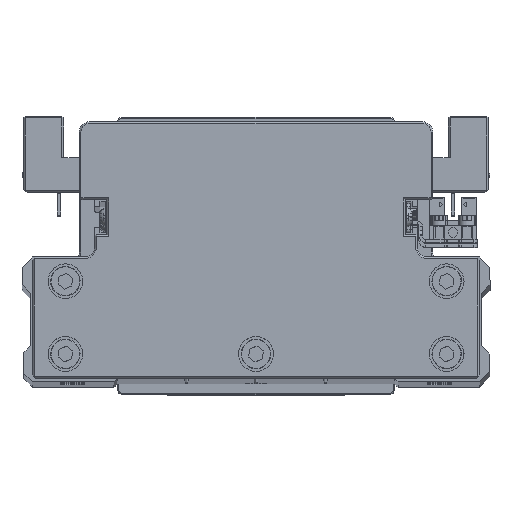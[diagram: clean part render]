
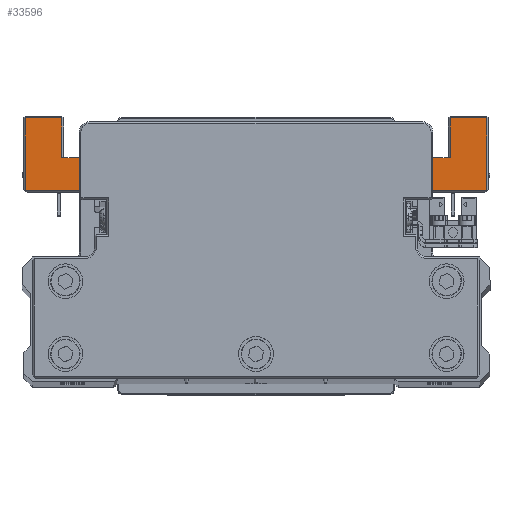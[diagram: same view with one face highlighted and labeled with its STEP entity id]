
A CAD part, top view. The second image highlights one B-rep face of the part: STEP entity #33596.
In plain terms, the highlighted planar face has unit normal (0, 0, 1) as drawn and (0, -1, 0) by its records, which use the part's own axes.
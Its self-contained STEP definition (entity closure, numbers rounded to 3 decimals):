
#302 = AXIS2_PLACEMENT_3D ( 'NONE', #22902, #35303, #7432 ) ;
#437 = VERTEX_POINT ( 'NONE', #11295 ) ;
#575 = LINE ( 'NONE', #12996, #25703 ) ;
#1486 = CARTESIAN_POINT ( 'NONE',  ( -56., -45., -64. ) ) ;
#1846 = PLANE ( 'NONE',  #14565 ) ;
#2175 = CARTESIAN_POINT ( 'NONE',  ( 55.5, -45., -52.5 ) ) ;
#2329 = VERTEX_POINT ( 'NONE', #1486 ) ;
#2502 = VECTOR ( 'NONE', #24038, 1000. ) ;
#2592 = VERTEX_POINT ( 'NONE', #22017 ) ;
#2631 = CARTESIAN_POINT ( 'NONE',  ( 66.5, -45., -43. ) ) ;
#2761 = DIRECTION ( 'NONE',  ( 0., 0., 1. ) ) ;
#2788 = VERTEX_POINT ( 'NONE', #11043 ) ;
#2882 = ORIENTED_EDGE ( 'NONE', *, *, #24115, .T. ) ;
#3493 = VECTOR ( 'NONE', #32410, 1000. ) ;
#3572 = ORIENTED_EDGE ( 'NONE', *, *, #27896, .T. ) ;
#3634 = DIRECTION ( 'NONE',  ( 0., 0., 1. ) ) ;
#3828 = DIRECTION ( 'NONE',  ( 0., 0., -1. ) ) ;
#4420 = VECTOR ( 'NONE', #5552, 1000. ) ;
#4732 = DIRECTION ( 'NONE',  ( -1., 0., 0. ) ) ;
#5180 = EDGE_CURVE ( 'NONE', #8607, #36846, #19289, .T. ) ;
#5191 = VERTEX_POINT ( 'NONE', #28637 ) ;
#5448 = ORIENTED_EDGE ( 'NONE', *, *, #17012, .T. ) ;
#5552 = DIRECTION ( 'NONE',  ( 0., 0., -1. ) ) ;
#5728 = LINE ( 'NONE', #18130, #33425 ) ;
#6037 = CARTESIAN_POINT ( 'NONE',  ( -77.786, -45., -42.5 ) ) ;
#6218 = EDGE_CURVE ( 'NONE', #27183, #8607, #20213, .T. ) ;
#6490 = CARTESIAN_POINT ( 'NONE',  ( -46., -45., -52.5 ) ) ;
#7432 = DIRECTION ( 'NONE',  ( 0., 0., -1. ) ) ;
#7447 = VERTEX_POINT ( 'NONE', #25497 ) ;
#7581 = LINE ( 'NONE', #20008, #3493 ) ;
#7717 = EDGE_CURVE ( 'NONE', #12613, #2592, #21008, .T. ) ;
#7741 = VECTOR ( 'NONE', #14598, 1000. ) ;
#7796 = LINE ( 'NONE', #20205, #13926 ) ;
#8044 = LINE ( 'NONE', #20461, #39507 ) ;
#8049 = CARTESIAN_POINT ( 'NONE',  ( -40.066, -45., -41.5 ) ) ;
#8148 = EDGE_CURVE ( 'NONE', #31023, #29052, #39489, .T. ) ;
#8607 = VERTEX_POINT ( 'NONE', #30999 ) ;
#10303 = LINE ( 'NONE', #22710, #25923 ) ;
#10494 = LINE ( 'NONE', #22894, #17403 ) ;
#10499 = CARTESIAN_POINT ( 'NONE',  ( -40.066, -45., -43. ) ) ;
#11043 = CARTESIAN_POINT ( 'NONE',  ( -39.868, -45., -42.987 ) ) ;
#11260 = CARTESIAN_POINT ( 'NONE',  ( 46., -45., -54. ) ) ;
#11295 = CARTESIAN_POINT ( 'NONE',  ( 46., -45., -54. ) ) ;
#11555 = VERTEX_POINT ( 'NONE', #29750 ) ;
#11557 = CARTESIAN_POINT ( 'NONE',  ( 39.868, -45., -42.987 ) ) ;
#11640 = CARTESIAN_POINT ( 'NONE',  ( 25.802, -45., -41.111 ) ) ;
#12613 = VERTEX_POINT ( 'NONE', #33712 ) ;
#12801 = EDGE_CURVE ( 'NONE', #36936, #437, #10303, .T. ) ;
#12996 = CARTESIAN_POINT ( 'NONE',  ( 40.066, -45., -43. ) ) ;
#13452 = ORIENTED_EDGE ( 'NONE', *, *, #6218, .T. ) ;
#13678 = VERTEX_POINT ( 'NONE', #16071 ) ;
#13876 = EDGE_LOOP ( 'NONE', ( #5448, #27678, #24569, #13452, #35612, #25183, #32798, #34338, #34993, #2882, #29267, #36251, #37316, #40224, #34585, #3572, #32757, #30082 ) ) ;
#13926 = VECTOR ( 'NONE', #32601, 1000. ) ;
#14107 = CARTESIAN_POINT ( 'NONE',  ( 36.217, -45., -42.5 ) ) ;
#14274 = CARTESIAN_POINT ( 'NONE',  ( 0., -45., 0. ) ) ;
#14565 = AXIS2_PLACEMENT_3D ( 'NONE', #14274, #26668, #39086 ) ;
#14598 = DIRECTION ( 'NONE',  ( -1., 0., 0. ) ) ;
#14910 = AXIS2_PLACEMENT_3D ( 'NONE', #8049, #20467, #32873 ) ;
#15086 = VERTEX_POINT ( 'NONE', #26452 ) ;
#15936 = EDGE_CURVE ( 'NONE', #5191, #2788, #10494, .T. ) ;
#16071 = CARTESIAN_POINT ( 'NONE',  ( -56., -45., -52.5 ) ) ;
#16974 = EDGE_CURVE ( 'NONE', #7447, #22782, #18248, .T. ) ;
#17012 = EDGE_CURVE ( 'NONE', #29052, #5191, #33901, .T. ) ;
#17326 = VECTOR ( 'NONE', #4732, 1000. ) ;
#17403 = VECTOR ( 'NONE', #35296, 1000. ) ;
#17860 = CIRCLE ( 'NONE', #302, 1.5 ) ;
#18130 = CARTESIAN_POINT ( 'NONE',  ( 67., -45., -64. ) ) ;
#18248 = LINE ( 'NONE', #30639, #37195 ) ;
#18434 = DIRECTION ( 'NONE',  ( -1., 0., 0. ) ) ;
#19100 = LINE ( 'NONE', #31500, #39931 ) ;
#19289 = LINE ( 'NONE', #31694, #22002 ) ;
#20008 = CARTESIAN_POINT ( 'NONE',  ( -55.5, -45., -52.5 ) ) ;
#20205 = CARTESIAN_POINT ( 'NONE',  ( -46., -45., -52.5 ) ) ;
#20213 = LINE ( 'NONE', #32610, #17326 ) ;
#20461 = CARTESIAN_POINT ( 'NONE',  ( -55.5, -45., -64. ) ) ;
#20467 = DIRECTION ( 'NONE',  ( 0., 1., 0. ) ) ;
#21008 = LINE ( 'NONE', #33411, #4420 ) ;
#22002 = VECTOR ( 'NONE', #3828, 1000. ) ;
#22017 = CARTESIAN_POINT ( 'NONE',  ( 56., -45., -64. ) ) ;
#22284 = EDGE_CURVE ( 'NONE', #36846, #2329, #8044, .T. ) ;
#22710 = CARTESIAN_POINT ( 'NONE',  ( 46., -45., -52.5 ) ) ;
#22782 = VERTEX_POINT ( 'NONE', #2631 ) ;
#22894 = CARTESIAN_POINT ( 'NONE',  ( -39.868, -45., -42.987 ) ) ;
#22902 = CARTESIAN_POINT ( 'NONE',  ( 40.066, -45., -41.5 ) ) ;
#23198 = EDGE_CURVE ( 'NONE', #12613, #36936, #30048, .T. ) ;
#23607 = EDGE_CURVE ( 'NONE', #2788, #27183, #32442, .T. ) ;
#23663 = DIRECTION ( 'NONE',  ( 1., 0., 0. ) ) ;
#24038 = DIRECTION ( 'NONE',  ( -0.991, 0., 0.132 ) ) ;
#24115 = EDGE_CURVE ( 'NONE', #15086, #437, #39127, .T. ) ;
#24569 = ORIENTED_EDGE ( 'NONE', *, *, #23607, .T. ) ;
#24848 = VECTOR ( 'NONE', #18434, 1000. ) ;
#25183 = ORIENTED_EDGE ( 'NONE', *, *, #22284, .T. ) ;
#25395 = DIRECTION ( 'NONE',  ( -1., 0., 0. ) ) ;
#25497 = CARTESIAN_POINT ( 'NONE',  ( 66.5, -45., -64. ) ) ;
#25703 = VECTOR ( 'NONE', #25395, 1000. ) ;
#25923 = VECTOR ( 'NONE', #35109, 1000. ) ;
#26452 = CARTESIAN_POINT ( 'NONE',  ( -46., -45., -54. ) ) ;
#26668 = DIRECTION ( 'NONE',  ( 0., -1., 0. ) ) ;
#27183 = VERTEX_POINT ( 'NONE', #10499 ) ;
#27678 = ORIENTED_EDGE ( 'NONE', *, *, #15936, .T. ) ;
#27864 = VERTEX_POINT ( 'NONE', #6490 ) ;
#27896 = EDGE_CURVE ( 'NONE', #22782, #11555, #575, .T. ) ;
#28637 = CARTESIAN_POINT ( 'NONE',  ( -36.217, -45., -42.5 ) ) ;
#29052 = VERTEX_POINT ( 'NONE', #14107 ) ;
#29267 = ORIENTED_EDGE ( 'NONE', *, *, #12801, .F. ) ;
#29712 = FACE_OUTER_BOUND ( 'NONE', #13876, .T. ) ;
#29750 = CARTESIAN_POINT ( 'NONE',  ( 40.066, -45., -43. ) ) ;
#30048 = LINE ( 'NONE', #2175, #7741 ) ;
#30082 = ORIENTED_EDGE ( 'NONE', *, *, #8148, .T. ) ;
#30522 = DIRECTION ( 'NONE',  ( 1., 0., 0. ) ) ;
#30639 = CARTESIAN_POINT ( 'NONE',  ( 66.5, -45., -43.5 ) ) ;
#30999 = CARTESIAN_POINT ( 'NONE',  ( -66.5, -45., -43. ) ) ;
#31023 = VERTEX_POINT ( 'NONE', #11557 ) ;
#31500 = CARTESIAN_POINT ( 'NONE',  ( -56., -45., -52.5 ) ) ;
#31694 = CARTESIAN_POINT ( 'NONE',  ( -66.5, -45., -64.5 ) ) ;
#31810 = EDGE_CURVE ( 'NONE', #27864, #13678, #7581, .T. ) ;
#31823 = EDGE_CURVE ( 'NONE', #15086, #27864, #7796, .T. ) ;
#32409 = CARTESIAN_POINT ( 'NONE',  ( -66.5, -45., -64. ) ) ;
#32410 = DIRECTION ( 'NONE',  ( -1., 0., 0. ) ) ;
#32442 = CIRCLE ( 'NONE', #14910, 1.5 ) ;
#32582 = EDGE_CURVE ( 'NONE', #11555, #31023, #17860, .T. ) ;
#32601 = DIRECTION ( 'NONE',  ( 0., 0., 1. ) ) ;
#32610 = CARTESIAN_POINT ( 'NONE',  ( -66., -45., -43. ) ) ;
#32757 = ORIENTED_EDGE ( 'NONE', *, *, #32582, .T. ) ;
#32798 = ORIENTED_EDGE ( 'NONE', *, *, #39887, .T. ) ;
#32866 = DIRECTION ( 'NONE',  ( 1., 0., 0. ) ) ;
#32873 = DIRECTION ( 'NONE',  ( 0., 0., -1. ) ) ;
#33411 = CARTESIAN_POINT ( 'NONE',  ( 56., -45., -64.5 ) ) ;
#33425 = VECTOR ( 'NONE', #30522, 1000. ) ;
#33596 = ADVANCED_FACE ( 'NONE', ( #29712 ), #1846, .T. ) ;
#33712 = CARTESIAN_POINT ( 'NONE',  ( 56., -45., -52.5 ) ) ;
#33901 = LINE ( 'NONE', #6037, #24848 ) ;
#34338 = ORIENTED_EDGE ( 'NONE', *, *, #31810, .F. ) ;
#34585 = ORIENTED_EDGE ( 'NONE', *, *, #16974, .T. ) ;
#34993 = ORIENTED_EDGE ( 'NONE', *, *, #31823, .F. ) ;
#35109 = DIRECTION ( 'NONE',  ( 0., 0., -1. ) ) ;
#35296 = DIRECTION ( 'NONE',  ( -0.991, 0., -0.132 ) ) ;
#35303 = DIRECTION ( 'NONE',  ( 0., 1., 0. ) ) ;
#35612 = ORIENTED_EDGE ( 'NONE', *, *, #5180, .T. ) ;
#36063 = CARTESIAN_POINT ( 'NONE',  ( 46., -45., -52.5 ) ) ;
#36251 = ORIENTED_EDGE ( 'NONE', *, *, #23198, .F. ) ;
#36846 = VERTEX_POINT ( 'NONE', #32409 ) ;
#36936 = VERTEX_POINT ( 'NONE', #36063 ) ;
#37195 = VECTOR ( 'NONE', #2761, 1000. ) ;
#37316 = ORIENTED_EDGE ( 'NONE', *, *, #7717, .T. ) ;
#38991 = VECTOR ( 'NONE', #23663, 1000. ) ;
#39086 = DIRECTION ( 'NONE',  ( 0., 0., -1. ) ) ;
#39127 = LINE ( 'NONE', #11260, #38991 ) ;
#39489 = LINE ( 'NONE', #11640, #2502 ) ;
#39507 = VECTOR ( 'NONE', #32866, 1000. ) ;
#39780 = EDGE_CURVE ( 'NONE', #2592, #7447, #5728, .T. ) ;
#39887 = EDGE_CURVE ( 'NONE', #2329, #13678, #19100, .T. ) ;
#39931 = VECTOR ( 'NONE', #3634, 1000. ) ;
#40224 = ORIENTED_EDGE ( 'NONE', *, *, #39780, .T. ) ;
